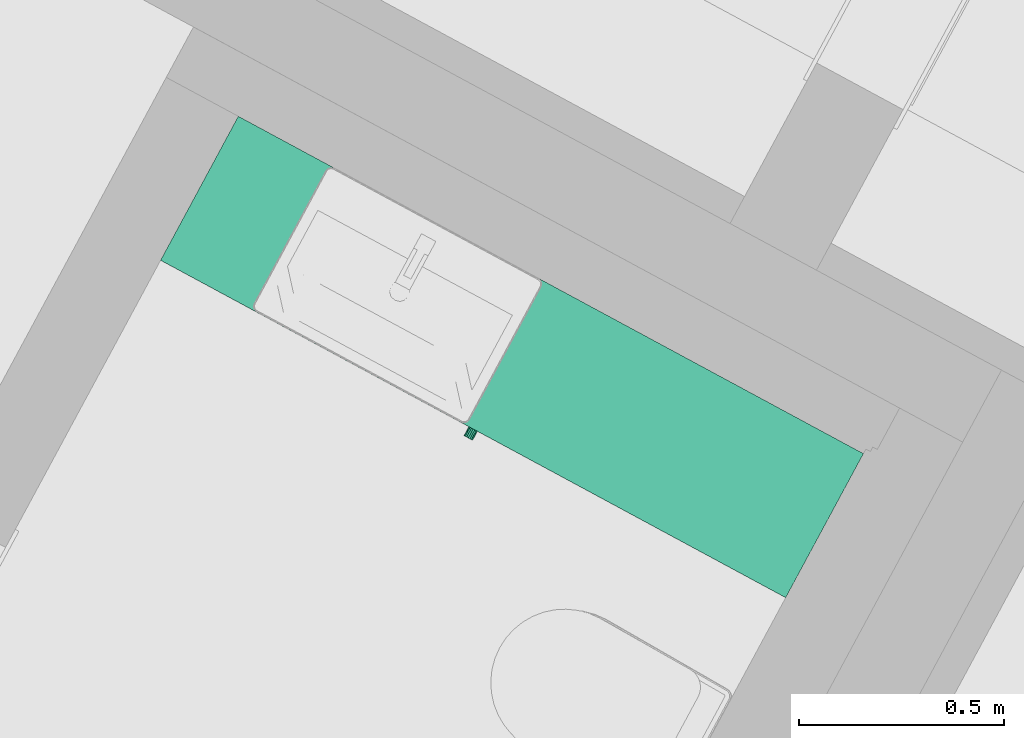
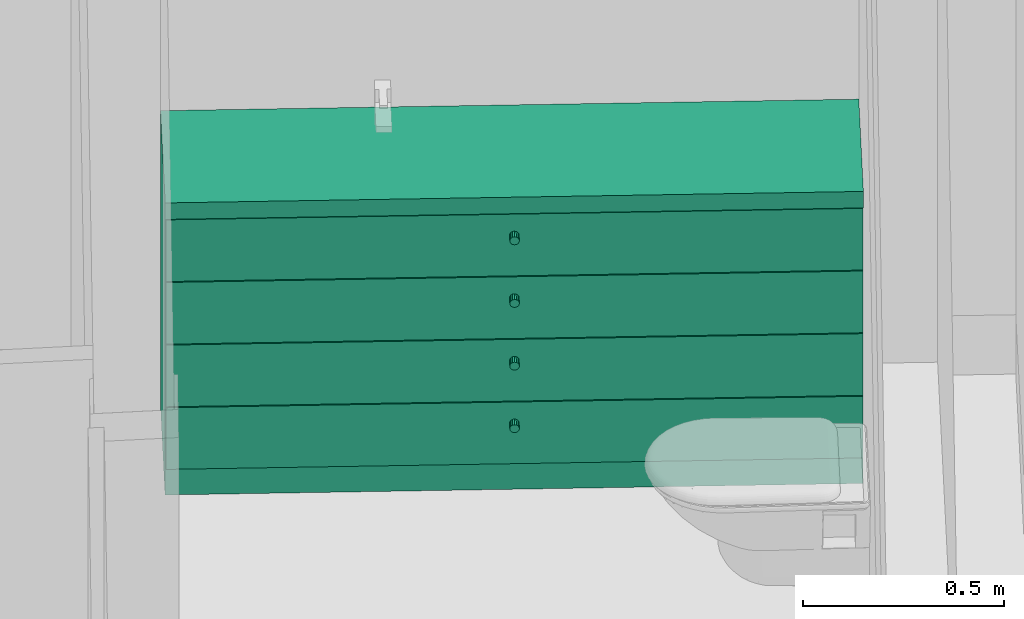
# One storey, part 25 of 52: 1 distribution element.
"""IFC2X3 building model written with IfcOpenShell, lengths in metres."""

from ifc_helpers import new_model, entity, si_unit, converted_unit, derived_unit, money_unit, direction, frame, origin_with_axes, place, context, subcontext, project, spatial, faceted_brep, type_object, element, save


model = new_model("IFC2X3")

# Units and contexts
model_context = context("Model", 3, precision=1e-05, world=origin_with_axes(), true_north=direction((0.0, 1.0)))
body_context = subcontext(model_context, "Body", "Model", "MODEL_VIEW")
ifc_project = project(units=[si_unit("LENGTHUNIT", "METRE"), si_unit("AREAUNIT", "SQUARE_METRE"), si_unit("VOLUMEUNIT", "CUBIC_METRE"), converted_unit("PLANEANGLEUNIT", "DEGREE", entity("IfcPlaneAngleMeasure", 0.0174532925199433), si_unit("PLANEANGLEUNIT", "RADIAN"), dimensions=[0, 0, 0, 0, 0, 0, 0]), money_unit("EUR"), converted_unit("TIMEUNIT", "Year", entity("IfcTimeMeasure", 31556926.0), si_unit("TIMEUNIT", "SECOND"), dimensions=[0, 0, 1, 0, 0, 0, 0]), si_unit("MASSUNIT", "GRAM", prefix="KILO"), si_unit("THERMODYNAMICTEMPERATUREUNIT", "DEGREE_CELSIUS"), si_unit("LUMINOUSINTENSITYUNIT", "LUMEN"), si_unit("ENERGYUNIT", "JOULE", prefix="MEGA"), derived_unit("THERMALCONDUCTANCEUNIT", [(si_unit("POWERUNIT", "WATT"), 1), (si_unit("LENGTHUNIT", "METRE"), -1), (si_unit("THERMODYNAMICTEMPERATUREUNIT", "KELVIN"), -1)]), derived_unit("SPECIFICHEATCAPACITYUNIT", [(si_unit("ENERGYUNIT", "JOULE"), 1), (si_unit("MASSUNIT", "GRAM", prefix="KILO"), -1), (si_unit("THERMODYNAMICTEMPERATUREUNIT", "KELVIN"), -1)]), derived_unit("MASSDENSITYUNIT", [(si_unit("MASSUNIT", "GRAM", prefix="KILO"), 1), (si_unit("VOLUMEUNIT", "CUBIC_METRE"), -1)])], contexts=[model_context])

# Site, building, storey
site_placement = place(None, frame((-3.949935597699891, 1.740105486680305, 0.0), z_axis=(0.0, 0.0, 1.0), x_axis=(0.8799804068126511, -0.475009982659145, 0.0)))
site = spatial("IfcSite", under=ifc_project, at=site_placement, Name="Gelände", CompositionType="ELEMENT")
building_placement = place(site_placement, origin_with_axes())
building = spatial("IfcBuilding", under=site, at=building_placement, Name="Gebäude", CompositionType="ELEMENT")
storey_placement = place(building_placement, origin_with_axes())
storey = spatial("IfcBuildingStorey", under=building, at=storey_placement, Name="Erdgeschoss", CompositionType="ELEMENT", Elevation=0.0)

# Distribution element
distribution_element_type = type_object("IfcDistributionElementType", Name="Unterschrank Mehrfach-Schublade 22")
distribution_element_placement = place(storey_placement, frame((17.72153792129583, 6.188053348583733, 0.0), z_axis=(0.0, 0.0, 1.0), x_axis=(0.9999999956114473, 9.368620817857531e-05, 0.0)))
element("IfcDistributionElement", 1, at=distribution_element_placement, inside=storey, type_object=distribution_element_type, Name="Objekt-0079", context=body_context, shape_type="Brep", body=[
    faceted_brep([(-0.001500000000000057, 0.01999999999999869, 0.0915), (-0.001500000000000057, 0.0, 0.0915), (-1.734509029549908, 0.0, 0.0915), (-1.734509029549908, 0.01999999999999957, 0.0915), (-0.001500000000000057, 0.01999999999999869, 0.2785), (-0.001500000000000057, 0.0, 0.2785), (-1.734509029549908, 0.0, 0.2785), (-1.734509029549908, 0.01999999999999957, 0.2785)], [[[0, 1, 2, 3]], [[4, 5, 1, 0]], [[1, 5, 6, 2]], [[3, 2, 6, 7]], [[0, 3, 7, 4]], [[7, 6, 5, 4]]]),
    faceted_brep([(-0.8634123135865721, 0.0, 0.2039134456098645), (-0.868004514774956, 0.0, 0.203), (-0.8725967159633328, 0.0, 0.2039134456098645), (-0.8764897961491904, 0.0, 0.2065147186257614), (-0.8790910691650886, 0.0, 0.2104077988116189), (-0.8800045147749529, 0.0, 0.215), (-0.8790910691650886, 0.0, 0.2195922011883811), (-0.8764897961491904, 0.0, 0.2234852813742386), (-0.8725967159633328, 0.0, 0.2260865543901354), (-0.868004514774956, 0.0, 0.227), (-0.8634123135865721, 0.0, 0.2260865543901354), (-0.8595192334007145, 0.0, 0.2234852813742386), (-0.8569179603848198, 0.0, 0.2195922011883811), (-0.856004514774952, 0.0, 0.215), (-0.8569179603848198, 0.0, 0.2104077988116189), (-0.8595192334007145, 0.0, 0.2065147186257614), (-0.8634123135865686, -0.02500000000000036, 0.2039134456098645), (-0.8680045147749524, -0.02500000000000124, 0.203), (-0.8725967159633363, -0.02500000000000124, 0.2039134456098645), (-0.876489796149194, -0.02500000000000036, 0.2065147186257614), (-0.8790910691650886, -0.02500000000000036, 0.2104077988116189), (-0.8800045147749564, -0.02500000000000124, 0.215), (-0.8790910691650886, -0.02500000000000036, 0.2195922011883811), (-0.876489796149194, -0.02500000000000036, 0.2234852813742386), (-0.8725967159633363, -0.02500000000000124, 0.2260865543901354), (-0.8680045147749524, -0.02500000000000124, 0.227), (-0.8634123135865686, -0.02500000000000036, 0.2260865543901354), (-0.8595192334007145, -0.02500000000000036, 0.2234852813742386), (-0.8569179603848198, -0.02500000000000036, 0.2195922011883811), (-0.856004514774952, -0.02500000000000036, 0.215), (-0.8569179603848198, -0.02500000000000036, 0.2104077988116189), (-0.8595192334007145, -0.02500000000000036, 0.2065147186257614)], [[[0, 1, 2, 3, 4, 5, 6, 7, 8, 9, 10, 11, 12, 13, 14, 15]], [[0, 16, 17, 1]], [[1, 17, 18, 2]], [[2, 18, 19, 3]], [[3, 19, 20, 4]], [[4, 20, 21, 5]], [[5, 21, 22, 6]], [[6, 22, 23, 7]], [[7, 23, 24, 8]], [[8, 24, 25, 9]], [[9, 25, 26, 10]], [[10, 26, 27, 11]], [[11, 27, 28, 12]], [[12, 28, 29, 13]], [[13, 29, 30, 14]], [[14, 30, 31, 15]], [[15, 31, 16, 0]], [[16, 31, 30, 29, 28, 27, 26, 25, 24, 23, 22, 21, 20, 19, 18, 17]]]),
    faceted_brep([(-0.001500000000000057, 0.01999999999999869, 0.2815), (-0.001500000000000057, 0.0, 0.2815), (-1.734509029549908, 0.0, 0.2815), (-1.734509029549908, 0.01999999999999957, 0.2815), (-0.001500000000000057, 0.01999999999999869, 0.4685), (-0.001500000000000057, 0.0, 0.4685), (-1.734509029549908, 0.0, 0.4685), (-1.734509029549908, 0.01999999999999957, 0.4685)], [[[0, 1, 2, 3]], [[4, 5, 1, 0]], [[1, 5, 6, 2]], [[3, 2, 6, 7]], [[0, 3, 7, 4]], [[7, 6, 5, 4]]]),
    faceted_brep([(-0.8634123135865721, 0.0, 0.3939134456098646), (-0.868004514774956, 0.0, 0.393), (-0.8725967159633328, 0.0, 0.3939134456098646), (-0.8764897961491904, 0.0, 0.3965147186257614), (-0.8790910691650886, 0.0, 0.400407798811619), (-0.8800045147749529, 0.0, 0.405), (-0.8790910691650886, 0.0, 0.4095922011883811), (-0.8764897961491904, 0.0, 0.4134852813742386), (-0.8725967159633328, 0.0, 0.4160865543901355), (-0.868004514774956, 0.0, 0.417), (-0.8634123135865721, 0.0, 0.4160865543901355), (-0.8595192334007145, 0.0, 0.4134852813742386), (-0.8569179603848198, 0.0, 0.4095922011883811), (-0.856004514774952, 0.0, 0.405), (-0.8569179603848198, 0.0, 0.4004077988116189), (-0.8595192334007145, 0.0, 0.3965147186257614), (-0.8634123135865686, -0.02500000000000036, 0.3939134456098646), (-0.8680045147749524, -0.02500000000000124, 0.393), (-0.8725967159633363, -0.02500000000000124, 0.3939134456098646), (-0.876489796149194, -0.02500000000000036, 0.3965147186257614), (-0.8790910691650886, -0.02500000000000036, 0.400407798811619), (-0.8800045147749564, -0.02500000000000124, 0.405), (-0.8790910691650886, -0.02500000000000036, 0.4095922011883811), (-0.876489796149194, -0.02500000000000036, 0.4134852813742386), (-0.8725967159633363, -0.02500000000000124, 0.4160865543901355), (-0.8680045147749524, -0.02500000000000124, 0.417), (-0.8634123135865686, -0.02500000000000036, 0.4160865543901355), (-0.8595192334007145, -0.02500000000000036, 0.4134852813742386), (-0.8569179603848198, -0.02500000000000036, 0.4095922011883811), (-0.856004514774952, -0.02500000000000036, 0.405), (-0.8569179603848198, -0.02500000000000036, 0.4004077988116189), (-0.8595192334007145, -0.02500000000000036, 0.3965147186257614)], [[[0, 1, 2, 3, 4, 5, 6, 7, 8, 9, 10, 11, 12, 13, 14, 15]], [[0, 16, 17, 1]], [[1, 17, 18, 2]], [[2, 18, 19, 3]], [[3, 19, 20, 4]], [[4, 20, 21, 5]], [[5, 21, 22, 6]], [[6, 22, 23, 7]], [[7, 23, 24, 8]], [[8, 24, 25, 9]], [[9, 25, 26, 10]], [[10, 26, 27, 11]], [[11, 27, 28, 12]], [[12, 28, 29, 13]], [[13, 29, 30, 14]], [[14, 30, 31, 15]], [[15, 31, 16, 0]], [[16, 31, 30, 29, 28, 27, 26, 25, 24, 23, 22, 21, 20, 19, 18, 17]]]),
    faceted_brep([(-0.01999999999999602, 0.01999999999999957, 0.28), (-0.01999999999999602, 0.01999999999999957, 0.3), (-1.716009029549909, 0.01999999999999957, 0.3), (-1.716009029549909, 0.01999999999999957, 0.28), (-0.02000000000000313, 0.3800000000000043, 0.28), (-0.02000000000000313, 0.3800000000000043, 0.3), (-1.716009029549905, 0.3800000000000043, 0.3), (-1.716009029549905, 0.3800000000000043, 0.28)], [[[0, 1, 2, 3]], [[4, 5, 1, 0]], [[1, 5, 6, 2]], [[3, 2, 6, 7]], [[0, 3, 7, 4]], [[7, 6, 5, 4]]]),
    faceted_brep([(-0.001500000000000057, 0.01999999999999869, 0.4715), (-0.001500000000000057, 0.0, 0.4715), (-1.734509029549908, 0.0, 0.4715), (-1.734509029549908, 0.01999999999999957, 0.4715), (-0.001500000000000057, 0.01999999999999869, 0.6585), (-0.001500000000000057, 0.0, 0.6585), (-1.734509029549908, 0.0, 0.6585), (-1.734509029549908, 0.01999999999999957, 0.6585)], [[[0, 1, 2, 3]], [[4, 5, 1, 0]], [[1, 5, 6, 2]], [[3, 2, 6, 7]], [[0, 3, 7, 4]], [[7, 6, 5, 4]]]),
    faceted_brep([(-0.8634123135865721, 0.0, 0.5839134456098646), (-0.868004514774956, 0.0, 0.583), (-0.8725967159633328, 0.0, 0.5839134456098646), (-0.8764897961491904, 0.0, 0.5865147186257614), (-0.8790910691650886, 0.0, 0.5904077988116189), (-0.8800045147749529, 0.0, 0.595), (-0.8790910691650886, 0.0, 0.5995922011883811), (-0.8764897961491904, 0.0, 0.6034852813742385), (-0.8725967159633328, 0.0, 0.6060865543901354), (-0.868004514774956, 0.0, 0.607), (-0.8634123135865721, 0.0, 0.6060865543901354), (-0.8595192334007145, 0.0, 0.6034852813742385), (-0.8569179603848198, 0.0, 0.5995922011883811), (-0.856004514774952, 0.0, 0.595), (-0.8569179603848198, 0.0, 0.5904077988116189), (-0.8595192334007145, 0.0, 0.5865147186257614), (-0.8634123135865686, -0.02500000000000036, 0.5839134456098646), (-0.8680045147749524, -0.02500000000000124, 0.583), (-0.8725967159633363, -0.02500000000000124, 0.5839134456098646), (-0.876489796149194, -0.02500000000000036, 0.5865147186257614), (-0.8790910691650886, -0.02500000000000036, 0.5904077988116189), (-0.8800045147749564, -0.02500000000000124, 0.595), (-0.8790910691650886, -0.02500000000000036, 0.5995922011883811), (-0.876489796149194, -0.02500000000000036, 0.6034852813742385), (-0.8725967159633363, -0.02500000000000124, 0.6060865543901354), (-0.8680045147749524, -0.02500000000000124, 0.607), (-0.8634123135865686, -0.02500000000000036, 0.6060865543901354), (-0.8595192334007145, -0.02500000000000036, 0.6034852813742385), (-0.8569179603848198, -0.02500000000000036, 0.5995922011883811), (-0.856004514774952, -0.02500000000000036, 0.595), (-0.8569179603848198, -0.02500000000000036, 0.5904077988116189), (-0.8595192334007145, -0.02500000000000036, 0.5865147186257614)], [[[0, 1, 2, 3, 4, 5, 6, 7, 8, 9, 10, 11, 12, 13, 14, 15]], [[0, 16, 17, 1]], [[1, 17, 18, 2]], [[2, 18, 19, 3]], [[3, 19, 20, 4]], [[4, 20, 21, 5]], [[5, 21, 22, 6]], [[6, 22, 23, 7]], [[7, 23, 24, 8]], [[8, 24, 25, 9]], [[9, 25, 26, 10]], [[10, 26, 27, 11]], [[11, 27, 28, 12]], [[12, 28, 29, 13]], [[13, 29, 30, 14]], [[14, 30, 31, 15]], [[15, 31, 16, 0]], [[16, 31, 30, 29, 28, 27, 26, 25, 24, 23, 22, 21, 20, 19, 18, 17]]]),
    faceted_brep([(-0.01999999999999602, 0.01999999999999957, 0.47), (-0.01999999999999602, 0.01999999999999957, 0.49), (-1.716009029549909, 0.01999999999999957, 0.49), (-1.716009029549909, 0.01999999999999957, 0.47), (-0.02000000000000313, 0.3800000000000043, 0.47), (-0.02000000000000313, 0.3800000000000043, 0.49), (-1.716009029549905, 0.3800000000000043, 0.49), (-1.716009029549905, 0.3800000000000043, 0.47)], [[[0, 1, 2, 3]], [[4, 5, 1, 0]], [[1, 5, 6, 2]], [[3, 2, 6, 7]], [[0, 3, 7, 4]], [[7, 6, 5, 4]]]),
    faceted_brep([(-0.001500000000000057, 0.01999999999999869, 0.6615), (-0.001500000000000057, 0.0, 0.6615), (-1.734509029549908, 0.0, 0.6615), (-1.734509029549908, 0.01999999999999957, 0.6615), (-0.001500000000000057, 0.01999999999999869, 0.8485), (-0.001500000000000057, 0.0, 0.8485), (-1.734509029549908, 0.0, 0.8485), (-1.734509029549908, 0.01999999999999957, 0.8485)], [[[0, 1, 2, 3]], [[4, 5, 1, 0]], [[1, 5, 6, 2]], [[3, 2, 6, 7]], [[0, 3, 7, 4]], [[7, 6, 5, 4]]]),
    faceted_brep([(-0.8634123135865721, 0.0, 0.7739134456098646), (-0.868004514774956, 0.0, 0.773), (-0.8725967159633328, 0.0, 0.7739134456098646), (-0.8764897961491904, 0.0, 0.7765147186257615), (-0.8790910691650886, 0.0, 0.7804077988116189), (-0.8800045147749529, 0.0, 0.785), (-0.8790910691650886, 0.0, 0.7895922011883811), (-0.8764897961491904, 0.0, 0.7934852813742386), (-0.8725967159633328, 0.0, 0.7960865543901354), (-0.868004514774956, 0.0, 0.797), (-0.8634123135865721, 0.0, 0.7960865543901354), (-0.8595192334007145, 0.0, 0.7934852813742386), (-0.8569179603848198, 0.0, 0.7895922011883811), (-0.856004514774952, 0.0, 0.785), (-0.8569179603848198, 0.0, 0.7804077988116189), (-0.8595192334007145, 0.0, 0.7765147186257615), (-0.8634123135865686, -0.02500000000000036, 0.7739134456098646), (-0.8680045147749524, -0.02500000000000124, 0.773), (-0.8725967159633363, -0.02500000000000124, 0.7739134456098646), (-0.876489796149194, -0.02500000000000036, 0.7765147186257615), (-0.8790910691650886, -0.02500000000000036, 0.7804077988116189), (-0.8800045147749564, -0.02500000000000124, 0.785), (-0.8790910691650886, -0.02500000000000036, 0.7895922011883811), (-0.876489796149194, -0.02500000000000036, 0.7934852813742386), (-0.8725967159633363, -0.02500000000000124, 0.7960865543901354), (-0.8680045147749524, -0.02500000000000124, 0.797), (-0.8634123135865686, -0.02500000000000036, 0.7960865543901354), (-0.8595192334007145, -0.02500000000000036, 0.7934852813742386), (-0.8569179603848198, -0.02500000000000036, 0.7895922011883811), (-0.856004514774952, -0.02500000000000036, 0.785), (-0.8569179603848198, -0.02500000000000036, 0.7804077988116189), (-0.8595192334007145, -0.02500000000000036, 0.7765147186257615)], [[[0, 1, 2, 3, 4, 5, 6, 7, 8, 9, 10, 11, 12, 13, 14, 15]], [[0, 16, 17, 1]], [[1, 17, 18, 2]], [[2, 18, 19, 3]], [[3, 19, 20, 4]], [[4, 20, 21, 5]], [[5, 21, 22, 6]], [[6, 22, 23, 7]], [[7, 23, 24, 8]], [[8, 24, 25, 9]], [[9, 25, 26, 10]], [[10, 26, 27, 11]], [[11, 27, 28, 12]], [[12, 28, 29, 13]], [[13, 29, 30, 14]], [[14, 30, 31, 15]], [[15, 31, 16, 0]], [[16, 31, 30, 29, 28, 27, 26, 25, 24, 23, 22, 21, 20, 19, 18, 17]]]),
    faceted_brep([(-0.01999999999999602, 0.01999999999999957, 0.66), (-0.01999999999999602, 0.01999999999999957, 0.68), (-1.716009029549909, 0.01999999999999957, 0.68), (-1.716009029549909, 0.01999999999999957, 0.66), (-0.02000000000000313, 0.3800000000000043, 0.66), (-0.02000000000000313, 0.3800000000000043, 0.68), (-1.716009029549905, 0.3800000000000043, 0.68), (-1.716009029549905, 0.3800000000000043, 0.66)], [[[0, 1, 2, 3]], [[4, 5, 1, 0]], [[1, 5, 6, 2]], [[3, 2, 6, 7]], [[0, 3, 7, 4]], [[7, 6, 5, 4]]]),
    faceted_brep([(0.0, 0.01999999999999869, 0.0), (0.0, 0.01999999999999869, 0.09), (-1.73600902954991, 0.01999999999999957, 0.09), (-1.73600902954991, 0.01999999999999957, 0.0), (0.0, 0.400000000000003, 0.0), (0.0, 0.400000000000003, 0.09), (-1.736009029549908, 0.4000000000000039, 0.09), (-1.736009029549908, 0.4000000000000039, 0.0)], [[[0, 1, 2, 3]], [[4, 5, 1, 0]], [[1, 5, 6, 2]], [[3, 2, 6, 7]], [[0, 3, 7, 4]], [[7, 6, 5, 4]]]),
    faceted_brep([(0.0, 0.01999999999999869, 0.83), (0.0, 0.01999999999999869, 0.85), (-0.01999999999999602, 0.01999999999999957, 0.85), (-0.01999999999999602, 0.01999999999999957, 0.83), (0.0, 0.400000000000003, 0.83), (0.0, 0.400000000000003, 0.85), (-0.01999999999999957, 0.400000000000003, 0.85), (-1.716009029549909, 0.4000000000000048, 0.85), (-1.736009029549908, 0.4000000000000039, 0.85), (-1.73600902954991, 0.01999999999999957, 0.85), (-1.716009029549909, 0.01999999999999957, 0.85), (-1.716009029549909, 0.01999999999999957, 0.83), (-1.73600902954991, 0.01999999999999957, 0.83), (-1.736009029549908, 0.4000000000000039, 0.83), (-1.716009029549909, 0.4000000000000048, 0.83), (-0.01999999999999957, 0.400000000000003, 0.83)], [[[0, 1, 2, 3]], [[4, 5, 1, 0]], [[1, 5, 6, 7, 8, 9, 10, 2]], [[3, 2, 10, 11]], [[0, 3, 11, 12, 13, 14, 15, 4]], [[15, 6, 5, 4]], [[14, 7, 6, 15]], [[13, 8, 7, 14]], [[12, 9, 8, 13]], [[11, 10, 9, 12]]]),
    faceted_brep([(0.0, 0.01999999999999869, 0.09), (0.0, 0.01999999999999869, 0.11), (-0.01999999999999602, 0.01999999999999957, 0.11), (-0.01999999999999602, 0.01999999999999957, 0.09), (0.0, 0.400000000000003, 0.09), (0.0, 0.400000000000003, 0.11), (-0.01999999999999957, 0.400000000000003, 0.11), (-1.716009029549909, 0.4000000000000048, 0.11), (-1.736009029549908, 0.4000000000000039, 0.11), (-1.73600902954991, 0.01999999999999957, 0.11), (-1.716009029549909, 0.01999999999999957, 0.11), (-1.716009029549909, 0.01999999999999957, 0.09), (-1.73600902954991, 0.01999999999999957, 0.09), (-1.736009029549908, 0.4000000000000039, 0.09), (-1.716009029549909, 0.4000000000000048, 0.09), (-0.01999999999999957, 0.400000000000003, 0.09)], [[[0, 1, 2, 3]], [[4, 5, 1, 0]], [[1, 5, 6, 7, 8, 9, 10, 2]], [[3, 2, 10, 11]], [[0, 3, 11, 12, 13, 14, 15, 4]], [[15, 6, 5, 4]], [[14, 7, 6, 15]], [[13, 8, 7, 14]], [[12, 9, 8, 13]], [[11, 10, 9, 12]]]),
    faceted_brep([(0.0, 0.01999999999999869, 0.11), (0.0, 0.01999999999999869, 0.83), (-0.01999999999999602, 0.01999999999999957, 0.83), (-0.01999999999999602, 0.01999999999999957, 0.11), (0.0, 0.400000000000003, 0.11), (0.0, 0.400000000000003, 0.83), (-1.736009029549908, 0.4000000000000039, 0.83), (-1.73600902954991, 0.01999999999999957, 0.83), (-1.716009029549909, 0.01999999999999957, 0.83), (-1.716009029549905, 0.3800000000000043, 0.83), (-0.02000000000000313, 0.3800000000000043, 0.83), (-0.02000000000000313, 0.3800000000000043, 0.11), (-1.716009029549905, 0.3800000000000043, 0.11), (-1.716009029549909, 0.01999999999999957, 0.11), (-1.73600902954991, 0.01999999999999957, 0.11), (-1.736009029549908, 0.4000000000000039, 0.11)], [[[0, 1, 2, 3]], [[4, 5, 1, 0]], [[1, 5, 6, 7, 8, 9, 10, 2]], [[3, 2, 10, 11]], [[0, 3, 11, 12, 13, 14, 15, 4]], [[15, 6, 5, 4]], [[14, 7, 6, 15]], [[13, 8, 7, 14]], [[12, 9, 8, 13]], [[11, 10, 9, 12]]]),
    faceted_brep([(0.0, 0.0, 0.85), (0.0, 0.0, 0.9), (-1.73600902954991, 0.0, 0.9), (-1.73600902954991, 0.0, 0.85), (0.0, 0.400000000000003, 0.85), (0.0, 0.400000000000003, 0.9), (-1.736009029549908, 0.4000000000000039, 0.9), (-1.736009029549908, 0.4000000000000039, 0.85)], [[[0, 1, 2, 3]], [[4, 5, 1, 0]], [[1, 5, 6, 2]], [[3, 2, 6, 7]], [[0, 3, 7, 4]], [[7, 6, 5, 4]]]),
])

save(model, "model.ifc")
